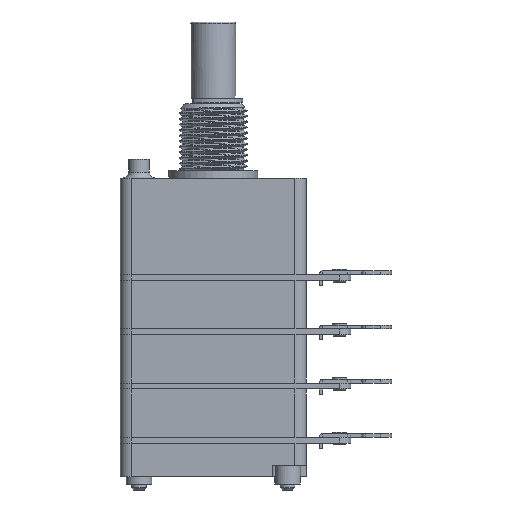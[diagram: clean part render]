
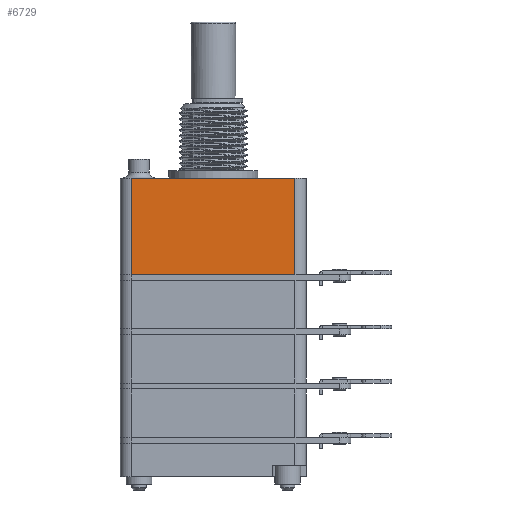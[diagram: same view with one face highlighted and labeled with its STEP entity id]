
A CAD part, left-side view. The second image highlights one B-rep face of the part: STEP entity #6729.
In plain terms, the highlighted planar face has unit normal (-1, 0, 0).
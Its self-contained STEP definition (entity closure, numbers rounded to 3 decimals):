
#850 = VERTEX_POINT('',#851);
#851 = CARTESIAN_POINT('',(-12.5,-11.,-14.));
#865 = PLANE('',#866);
#866 = AXIS2_PLACEMENT_3D('',#867,#868,#869);
#867 = CARTESIAN_POINT('',(-12.5,-18.5,-14.8));
#868 = DIRECTION('',(1.,0.,0.));
#869 = DIRECTION('',(0.,0.,1.));
#2391 = CYLINDRICAL_SURFACE('',#2392,1.5);
#2392 = AXIS2_PLACEMENT_3D('',#2393,#2394,#2395);
#2393 = CARTESIAN_POINT('',(-11.,-11.,-14.));
#2394 = DIRECTION('',(0.,0.,1.));
#2395 = DIRECTION('',(-1.,0.,0.));
#3522 = VERTEX_POINT('',#3523);
#3523 = CARTESIAN_POINT('',(-12.5,11.,-14.));
#3549 = EDGE_CURVE('',#850,#3522,#3550,.T.);
#3550 = SURFACE_CURVE('',#3551,(#3555,#3562),.PCURVE_S1.);
#3551 = LINE('',#3552,#3553);
#3552 = CARTESIAN_POINT('',(-12.5,-18.5,-14.));
#3553 = VECTOR('',#3554,1.);
#3554 = DIRECTION('',(0.,1.,0.));
#3555 = PCURVE('',#865,#3556);
#3556 = DEFINITIONAL_REPRESENTATION('',(#3557),#3561);
#3557 = LINE('',#3558,#3559);
#3558 = CARTESIAN_POINT('',(0.8,0.));
#3559 = VECTOR('',#3560,1.);
#3560 = DIRECTION('',(0.,-1.));
#3561 = ( GEOMETRIC_REPRESENTATION_CONTEXT(2) 
PARAMETRIC_REPRESENTATION_CONTEXT() REPRESENTATION_CONTEXT('2D SPACE',''
  ) );
#3562 = PCURVE('',#3563,#3568);
#3563 = PLANE('',#3564);
#3564 = AXIS2_PLACEMENT_3D('',#3565,#3566,#3567);
#3565 = CARTESIAN_POINT('',(-12.5,-12.5,-14.));
#3566 = DIRECTION('',(1.,0.,0.));
#3567 = DIRECTION('',(0.,0.,1.));
#3568 = DEFINITIONAL_REPRESENTATION('',(#3569),#3573);
#3569 = LINE('',#3570,#3571);
#3570 = CARTESIAN_POINT('',(0.,6.));
#3571 = VECTOR('',#3572,1.);
#3572 = DIRECTION('',(0.,-1.));
#3573 = ( GEOMETRIC_REPRESENTATION_CONTEXT(2) 
PARAMETRIC_REPRESENTATION_CONTEXT() REPRESENTATION_CONTEXT('2D SPACE',''
  ) );
#3603 = VERTEX_POINT('',#3604);
#3604 = CARTESIAN_POINT('',(-12.5,-11.,-1.));
#3619 = PLANE('',#3620);
#3620 = AXIS2_PLACEMENT_3D('',#3621,#3622,#3623);
#3621 = CARTESIAN_POINT('',(-12.5,-12.5,-1.));
#3622 = DIRECTION('',(0.,0.,1.));
#3623 = DIRECTION('',(1.,0.,0.));
#3631 = EDGE_CURVE('',#850,#3603,#3632,.T.);
#3632 = SURFACE_CURVE('',#3633,(#3637,#3644),.PCURVE_S1.);
#3633 = LINE('',#3634,#3635);
#3634 = CARTESIAN_POINT('',(-12.5,-11.,-14.));
#3635 = VECTOR('',#3636,1.);
#3636 = DIRECTION('',(0.,0.,1.));
#3637 = PCURVE('',#2391,#3638);
#3638 = DEFINITIONAL_REPRESENTATION('',(#3639),#3643);
#3639 = LINE('',#3640,#3641);
#3640 = CARTESIAN_POINT('',(0.,0.));
#3641 = VECTOR('',#3642,1.);
#3642 = DIRECTION('',(0.,1.));
#3643 = ( GEOMETRIC_REPRESENTATION_CONTEXT(2) 
PARAMETRIC_REPRESENTATION_CONTEXT() REPRESENTATION_CONTEXT('2D SPACE',''
  ) );
#3644 = PCURVE('',#3563,#3645);
#3645 = DEFINITIONAL_REPRESENTATION('',(#3646),#3650);
#3646 = LINE('',#3647,#3648);
#3647 = CARTESIAN_POINT('',(0.,-1.5));
#3648 = VECTOR('',#3649,1.);
#3649 = DIRECTION('',(1.,0.));
#3650 = ( GEOMETRIC_REPRESENTATION_CONTEXT(2) 
PARAMETRIC_REPRESENTATION_CONTEXT() REPRESENTATION_CONTEXT('2D SPACE',''
  ) );
#6729 = ADVANCED_FACE('',(#6730),#3563,.F.);
#6730 = FACE_BOUND('',#6731,.F.);
#6731 = EDGE_LOOP('',(#6732,#6755,#6756,#6757));
#6732 = ORIENTED_EDGE('',*,*,#6733,.F.);
#6733 = EDGE_CURVE('',#3603,#6734,#6736,.T.);
#6734 = VERTEX_POINT('',#6735);
#6735 = CARTESIAN_POINT('',(-12.5,11.,-1.));
#6736 = SURFACE_CURVE('',#6737,(#6741,#6748),.PCURVE_S1.);
#6737 = LINE('',#6738,#6739);
#6738 = CARTESIAN_POINT('',(-12.5,-12.5,-1.));
#6739 = VECTOR('',#6740,1.);
#6740 = DIRECTION('',(0.,1.,0.));
#6741 = PCURVE('',#3563,#6742);
#6742 = DEFINITIONAL_REPRESENTATION('',(#6743),#6747);
#6743 = LINE('',#6744,#6745);
#6744 = CARTESIAN_POINT('',(13.,0.));
#6745 = VECTOR('',#6746,1.);
#6746 = DIRECTION('',(0.,-1.));
#6747 = ( GEOMETRIC_REPRESENTATION_CONTEXT(2) 
PARAMETRIC_REPRESENTATION_CONTEXT() REPRESENTATION_CONTEXT('2D SPACE',''
  ) );
#6748 = PCURVE('',#3619,#6749);
#6749 = DEFINITIONAL_REPRESENTATION('',(#6750),#6754);
#6750 = LINE('',#6751,#6752);
#6751 = CARTESIAN_POINT('',(0.,0.));
#6752 = VECTOR('',#6753,1.);
#6753 = DIRECTION('',(0.,1.));
#6754 = ( GEOMETRIC_REPRESENTATION_CONTEXT(2) 
PARAMETRIC_REPRESENTATION_CONTEXT() REPRESENTATION_CONTEXT('2D SPACE',''
  ) );
#6755 = ORIENTED_EDGE('',*,*,#3631,.F.);
#6756 = ORIENTED_EDGE('',*,*,#3549,.T.);
#6757 = ORIENTED_EDGE('',*,*,#6758,.T.);
#6758 = EDGE_CURVE('',#3522,#6734,#6759,.T.);
#6759 = SURFACE_CURVE('',#6760,(#6764,#6771),.PCURVE_S1.);
#6760 = LINE('',#6761,#6762);
#6761 = CARTESIAN_POINT('',(-12.5,11.,-14.));
#6762 = VECTOR('',#6763,1.);
#6763 = DIRECTION('',(0.,0.,1.));
#6764 = PCURVE('',#3563,#6765);
#6765 = DEFINITIONAL_REPRESENTATION('',(#6766),#6770);
#6766 = LINE('',#6767,#6768);
#6767 = CARTESIAN_POINT('',(0.,-23.5));
#6768 = VECTOR('',#6769,1.);
#6769 = DIRECTION('',(1.,0.));
#6770 = ( GEOMETRIC_REPRESENTATION_CONTEXT(2) 
PARAMETRIC_REPRESENTATION_CONTEXT() REPRESENTATION_CONTEXT('2D SPACE',''
  ) );
#6771 = PCURVE('',#6772,#6777);
#6772 = CYLINDRICAL_SURFACE('',#6773,1.5);
#6773 = AXIS2_PLACEMENT_3D('',#6774,#6775,#6776);
#6774 = CARTESIAN_POINT('',(-11.,11.,-14.));
#6775 = DIRECTION('',(0.,0.,1.));
#6776 = DIRECTION('',(-1.,0.,0.));
#6777 = DEFINITIONAL_REPRESENTATION('',(#6778),#6782);
#6778 = LINE('',#6779,#6780);
#6779 = CARTESIAN_POINT('',(-0.,0.));
#6780 = VECTOR('',#6781,1.);
#6781 = DIRECTION('',(-0.,1.));
#6782 = ( GEOMETRIC_REPRESENTATION_CONTEXT(2) 
PARAMETRIC_REPRESENTATION_CONTEXT() REPRESENTATION_CONTEXT('2D SPACE',''
  ) );
